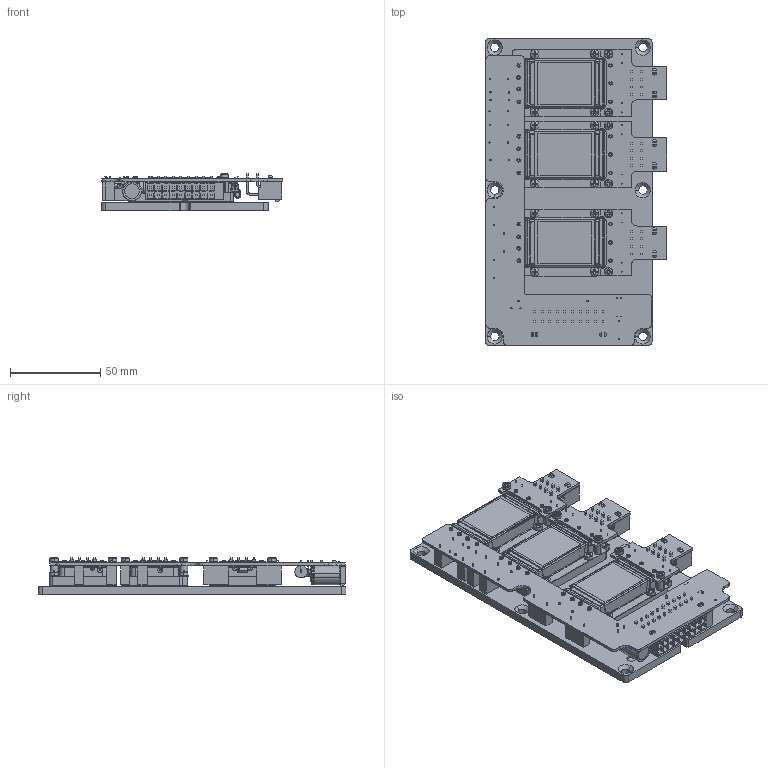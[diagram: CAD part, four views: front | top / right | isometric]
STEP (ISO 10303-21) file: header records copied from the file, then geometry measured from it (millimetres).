
FILE_DESCRIPTION (( 'STEP AP214' ), '1' );
FILE_NAME ('VA-C-PLUG-2OUT.STEP', '2011-02-16T14:10:23', ( 'Vicor Employee' ), ( 'Vicor Corporation' ), 'SwSTEP 2.0', 'SolidWorks 2011', '' );
FILE_SCHEMA (( 'AUTOMOTIVE_DESIGN' ));
Length unit declared in the file: inch
Products named in the file (1): VA-C-PLUG-2OUT
Bounding box: 100.3 x 170.51 x 20.68 mm (x, y, z)
Volume: 129115.6 mm3; surface area: 115772 mm2
Topology: 1 solids, 1 shells, 5374 faces, 14476 edges, 9117 vertices
Faces by surface type: plane 2814, cylinder 1814, bspline 254, cone 204, torus 192, sphere 96
Entity records: 274355 total; most frequent: CARTESIAN_POINT 72937, ORIENTED_EDGE 28688, DIRECTION 26253, EDGE_CURVE 14344, VERTEX_POINT 9117, AXIS2_PLACEMENT_3D 8792, VECTOR 8669, LINE 8669
